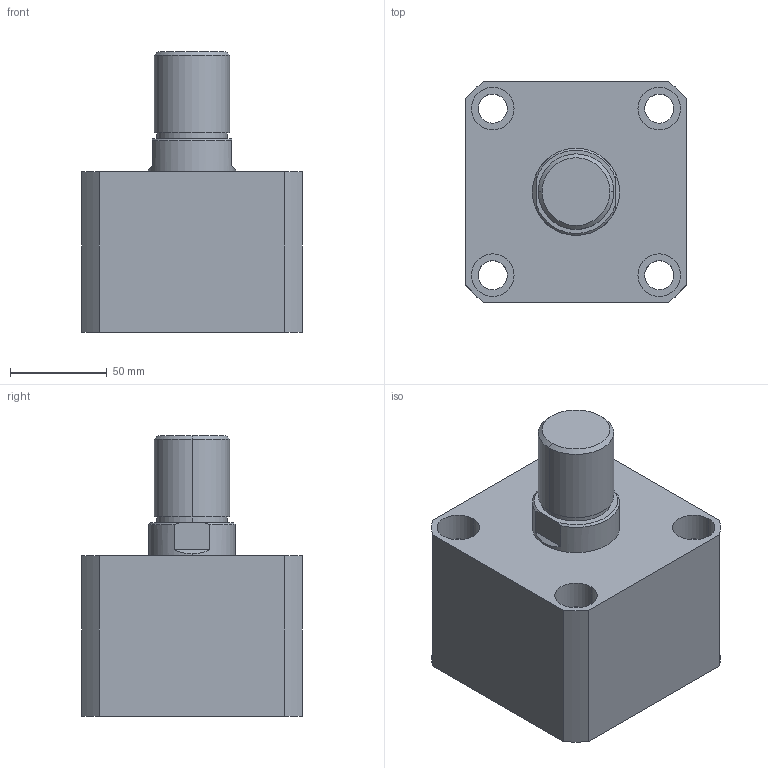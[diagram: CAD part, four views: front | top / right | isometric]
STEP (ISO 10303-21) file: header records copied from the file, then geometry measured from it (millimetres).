
FILE_DESCRIPTION (( 'STEP AP203' ), '1' );
FILE_NAME ('HTB-SDMB80-5W.STEP', '2019-10-09T05:56:29', ( '微软用户' ), ( '微软中国' ), 'SwSTEP 2.0', 'SolidWorks 2012', '' );
FILE_SCHEMA (( 'CONFIG_CONTROL_DESIGN' ));
Length unit declared in the file: millimetre
Products named in the file (3): HTB-SDMB80-5掛极; HTB-SDMB80-5W活塞杆; HTB-SDMB80-5W
Assembly tree (2 placements, depth 2):
  HTB-SDMB80-5W
    HTB-SDMB80-5掛极
    HTB-SDMB80-5W活塞杆
Bounding box: 114 x 114 x 145 mm (x, y, z)
Volume: 1043709 mm3; surface area: 130562.4 mm2
Topology: 2 solids, 2 shells, 141 faces, 337 edges, 222 vertices
Faces by surface type: plane 67, cylinder 48, bspline 16, torus 6, cone 4
Entity records: 5180 total; most frequent: CARTESIAN_POINT 1597, ORIENTED_EDGE 674, DIRECTION 669, EDGE_CURVE 337, AXIS2_PLACEMENT_3D 242, VERTEX_POINT 222, LINE 185, VECTOR 185
